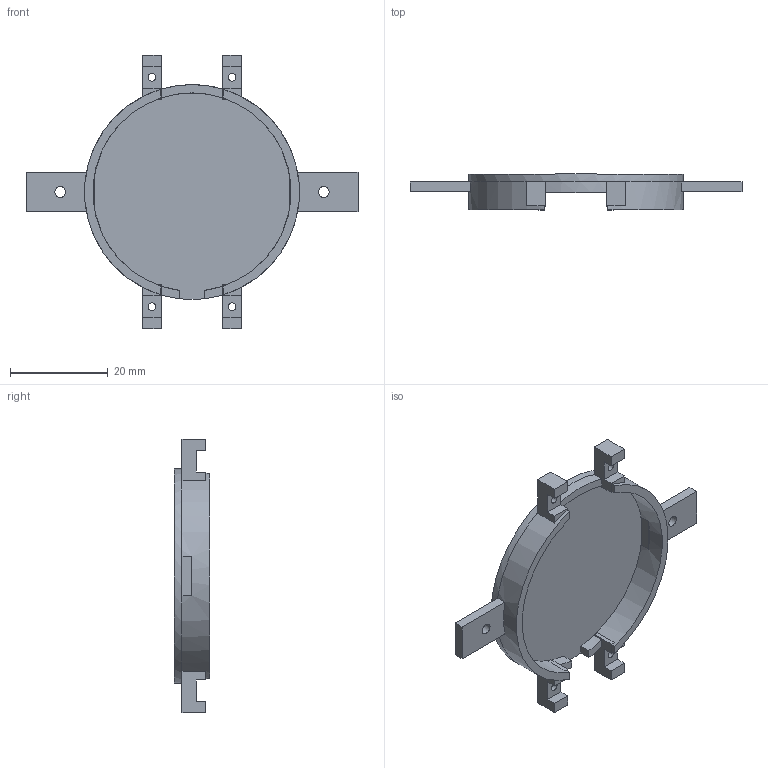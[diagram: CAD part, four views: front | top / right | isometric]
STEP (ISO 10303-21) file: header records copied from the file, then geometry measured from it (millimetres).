
FILE_DESCRIPTION(('Open CASCADE Model'),'2;1');
FILE_NAME('04_SPEAKER_REAR_CUP','2026-09-06T11:49:22',('Author'),( 'Open CASCADE'),'Open CASCADE STEP processor 7.8','build123d', 'Unknown');
FILE_SCHEMA(('AUTOMOTIVE_DESIGN { 1 0 10303 214 1 1 1 1 }'));
Length unit declared in the file: millimetre
Products named in the file (2): =>[0:1:1:2]; 04_SPEAKER_REAR_CUP
Assembly tree (1 placements, depth 2):
  =>[0:1:1:2]
    04_SPEAKER_REAR_CUP
Bounding box: 68 x 7.3 x 56 mm (x, y, z)
Volume: 4209.3 mm3; surface area: 5689.3 mm2
Topology: 1 solids, 1 shells, 82 faces, 226 edges, 150 vertices
Faces by surface type: plane 73, cylinder 9
Full cylindrical faces by diameter (mm): 1.6 x4, 2.2 x2, 44 x1
Entity records: 5665 total; most frequent: CARTESIAN_POINT 1238, DIRECTION 791, LINE 516, VECTOR 516, ORIENTED_EDGE 452, PCURVE 452, DEFINITIONAL_REPRESENTATION 452, EDGE_CURVE 226
